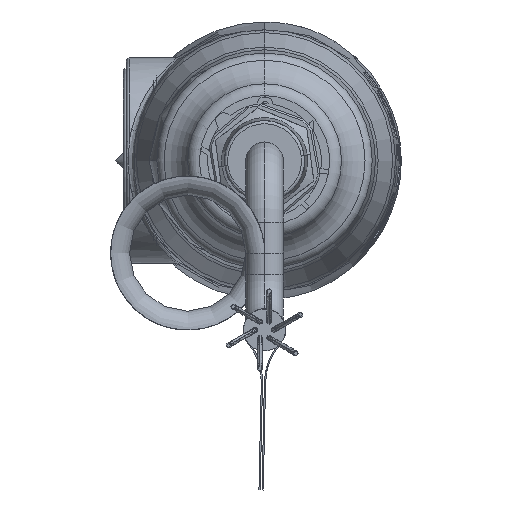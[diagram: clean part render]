
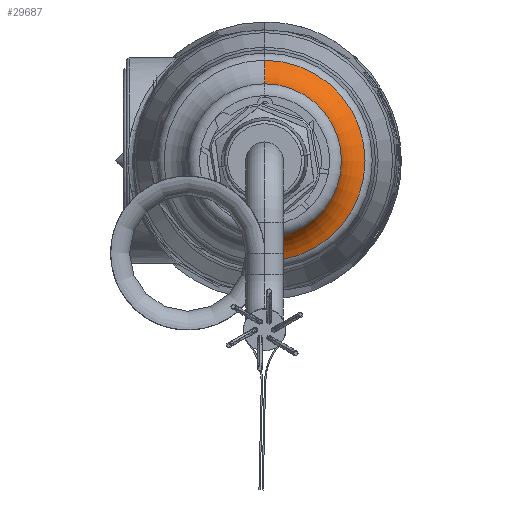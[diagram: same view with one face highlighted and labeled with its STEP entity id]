
A CAD part, front view. The second image highlights one B-rep face of the part: STEP entity #29687.
In plain terms, the highlighted toroidal (fillet/blend) face has major radius 19.284 mm and minor radius 7.021 mm.
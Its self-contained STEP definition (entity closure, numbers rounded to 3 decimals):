
#186=CARTESIAN_POINT('',(0.015,6.187,0.02));
#187=DIRECTION('',(0.,1.,0.));
#188=DIRECTION('',(0.,0.,1.));
#189=AXIS2_PLACEMENT_3D('',#186,#187,#188);
#194=CARTESIAN_POINT('',(0.015,-0.204,
19.304));
#195=DIRECTION('',(-1.,0.,0.));
#196=DIRECTION('',(0.,0.91,-0.414));
#197=AXIS2_PLACEMENT_3D('',#194,#195,#196);
#202=CARTESIAN_POINT('',(0.015,1.741,0.02));
#203=DIRECTION('',(0.,1.,0.));
#204=DIRECTION('',(0.,0.,1.));
#205=AXIS2_PLACEMENT_3D('',#202,#203,#204);
#218=CARTESIAN_POINT('',(0.015,-0.204,
-19.264));
#219=DIRECTION('',(1.,0.,0.));
#220=DIRECTION('',(0.,0.91,0.414));
#221=AXIS2_PLACEMENT_3D('',#218,#219,#220);
#27346=CARTESIAN_POINT('',(0.015,1.741,
12.557));
#27347=CARTESIAN_POINT('',(0.015,1.741,
-12.518));
#27348=VERTEX_POINT('',#27346);
#27349=VERTEX_POINT('',#27347);
#27373=CARTESIAN_POINT('',(0.015,6.187,
16.397));
#27375=VERTEX_POINT('',#27373);
#27894=CARTESIAN_POINT('',(0.015,6.187,
-16.357));
#27895=VERTEX_POINT('',#27894);
#29673=CARTESIAN_POINT('',(0.015,-0.204,
0.02));
#29674=DIRECTION('',(0.,-1.,0.));
#29675=DIRECTION('',(0.,0.,-1.));
#29676=AXIS2_PLACEMENT_3D('',#29673,#29674,#29675);
#29677=TOROIDAL_SURFACE('',#29676,19.284,7.021);
#29679=ORIENTED_EDGE('',*,*,#29678,.F.);
#29680=ORIENTED_EDGE('',*,*,#29660,.T.);
#29682=ORIENTED_EDGE('',*,*,#29681,.T.);
#29684=ORIENTED_EDGE('',*,*,#29683,.F.);
#29685=EDGE_LOOP('',(#29679,#29680,#29682,#29684));
#29686=FACE_OUTER_BOUND('',#29685,.F.);
#29687=ADVANCED_FACE('',(#29686),#29677,.F.);
#190=CIRCLE('',#189,16.377);
#198=CIRCLE('',#197,7.021);
#206=CIRCLE('',#205,12.538);
#222=CIRCLE('',#221,7.021);
#29660=EDGE_CURVE('',#27375,#27895,#190,.T.);
#29678=EDGE_CURVE('',#27375,#27348,#198,.T.);
#29681=EDGE_CURVE('',#27895,#27349,#222,.T.);
#29683=EDGE_CURVE('',#27348,#27349,#206,.T.);
